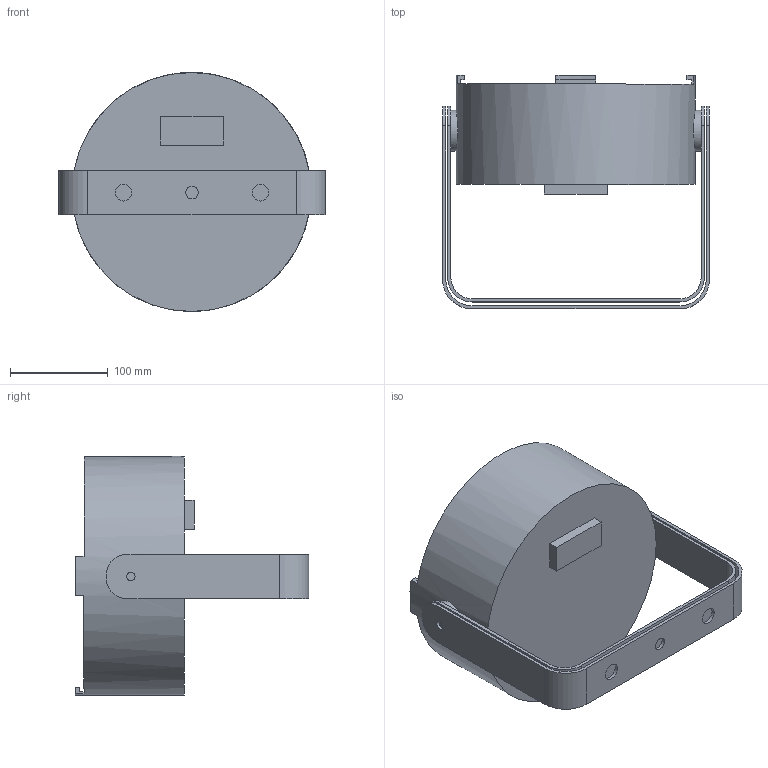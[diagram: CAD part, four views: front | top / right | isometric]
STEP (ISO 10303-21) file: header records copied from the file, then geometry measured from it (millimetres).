
FILE_DESCRIPTION(/* description */ (''),/* implementation_level */ '2;1');
FILE_NAME(/* name */ 'C:\Users\dgooch\Documents\!!CADENG\PRO\Colordash Par H18X\0\Colordash Par H18X_0_3D.stp',/* time_stamp */ '2022-08-02T11:59:20-04:00',/* author */ ('dgooch'),/* organization */ (''),/* preprocessor_version */ 'ST-DEVELOPER v19',/* originating_system */ 'Autodesk Inventor 2023',/* authorisation */ '');
FILE_SCHEMA (('AUTOMOTIVE_DESIGN { 1 0 10303 214 3 1 1 }'));
Length unit declared in the file: millimetre
Products named in the file (4): Colordash Par H18X; PRT0096 (1); PRT0097 (1); Main (1)
Assembly tree (3 placements, depth 2):
  Colordash Par H18X
    PRT0096 (1)
    PRT0097 (1)
    Main (1)
Bounding box: 272.8 x 239 x 244.46 mm (x, y, z)
Volume: 4848610.4 mm3; surface area: 305614.1 mm2
Topology: 3 solids, 3 shells, 75 faces, 199 edges, 133 vertices
Faces by surface type: plane 45, cylinder 29, bspline 1
Full cylindrical faces by diameter (mm): 8.5 x4, 13 x1, 17.2 x2, 42.102 x2, 244.458 x1
Entity records: 3968 total; most frequent: CARTESIAN_POINT 1857, DIRECTION 416, ORIENTED_EDGE 398, EDGE_CURVE 199, AXIS2_PLACEMENT_3D 143, VERTEX_POINT 133, LINE 130, VECTOR 130
